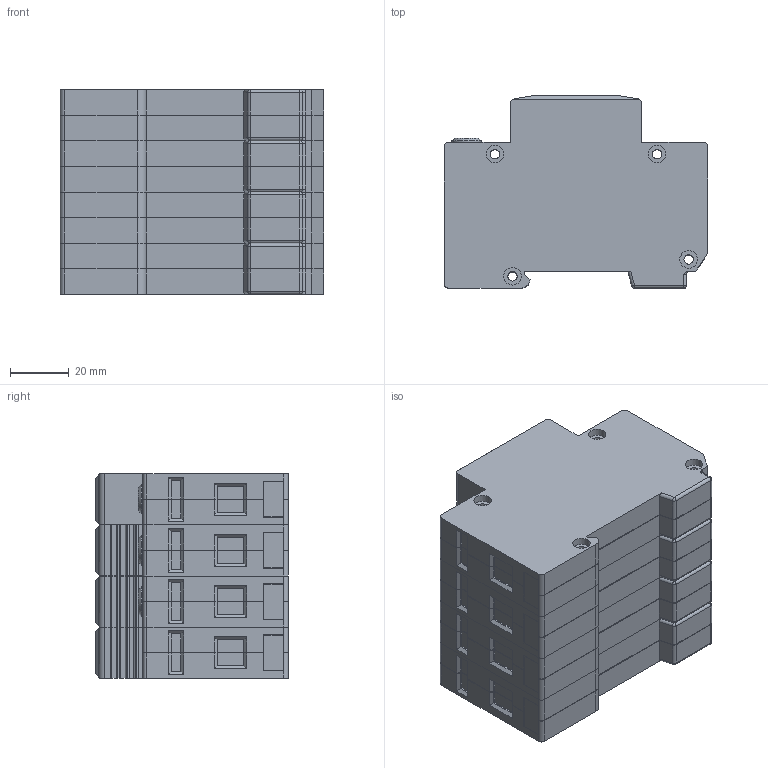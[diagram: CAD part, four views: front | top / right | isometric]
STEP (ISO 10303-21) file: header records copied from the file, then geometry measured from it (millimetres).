
FILE_DESCRIPTION(/* description */ (''),/* implementation_level */ '2;1');
FILE_NAME(/* name */ 'K:\PROJEKTY ROZPRACOVANÉ\MODELY DO KATALOGU\HSA, HLSA 24520, 10007\3D - STEP\H 3+1 M.stp',/* time_stamp */ '2022-04-01T08:11:24+02:00',/* author */ ('miko'),/* organization */ (''),/* preprocessor_version */ 'ST-DEVELOPER v18.1',/* originating_system */ 'Autodesk Inventor 2022',/* authorisation */ '');
FILE_SCHEMA (('AUTOMOTIVE_DESIGN { 1 0 10303 214 3 1 1 }'));
Length unit declared in the file: millimetre
Products named in the file (8): H 3+1 M; HSA M; HSA M_1; HGDT (Z); HGDT (Z)_1; HSA M (Z); HSA M (Z)_1; DIN 7985 (H) - M5x6-H
Assembly tree (11 placements, depth 3):
  H 3+1 M
    HSA M
      HSA M_1
      DIN 7985 (H) - M5x6-H  x2
    HGDT (Z)
      HGDT (Z)_1
      DIN 7985 (H) - M5x6-H
    HSA M (Z)  x2
      HSA M (Z)_1
      DIN 7985 (H) - M5x6-H
Bounding box: 90 x 65.8 x 70 mm (x, y, z)
Volume: 336568.8 mm3; surface area: 78448.3 mm2
Topology: 9 solids, 9 shells, 1300 faces, 3572 edges, 2334 vertices
Faces by surface type: plane 925, cylinder 253, cone 88, sphere 21, torus 13
Full cylindrical faces by diameter (mm): 3.2 x16, 4.6 x5, 5 x5, 6 x32, 10 x3
Entity records: 27162 total; most frequent: CARTESIAN_POINT 4819, ORIENTED_EDGE 4684, DIRECTION 4497, EDGE_CURVE 2342, LINE 1879, VECTOR 1879, VERTEX_POINT 1527, AXIS2_PLACEMENT_3D 1309
